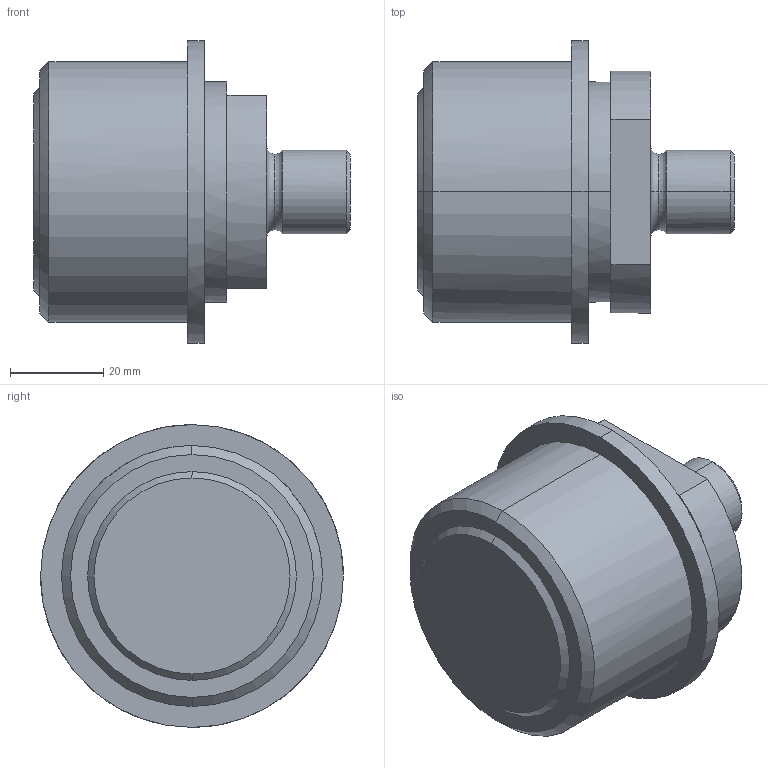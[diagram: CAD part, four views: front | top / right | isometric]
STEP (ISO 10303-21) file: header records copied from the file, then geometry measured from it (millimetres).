
FILE_DESCRIPTION(('CATIA V5 STEP Exchange'),'2;1');
FILE_NAME('C:\Users\Utente\Desktop\IO LAVORO\3D X SITO CF\X SITO\PLASTICA\AGS\AGS3412M18.stp','2021-02-21T19:39:13+00:00',('none'),('none'),'CATIA Version 5 Release 20 GA (IN-10)','CATIA V5 STEP AP203','none');
FILE_SCHEMA(('CONFIG_CONTROL_DESIGN'));
Length unit declared in the file: millimetre
Products named in the file (1): AGS3412M18
Bounding box: 68 x 65 x 65 mm (x, y, z)
Volume: 120860.7 mm3; surface area: 16355.2 mm2
Topology: 1 solids, 1 shells, 32 faces, 90 edges, 64 vertices
Faces by surface type: plane 12, cylinder 10, cone 6, torus 4
Entity records: 1198 total; most frequent: CARTESIAN_POINT 343, ORIENTED_EDGE 180, DIRECTION 139, EDGE_CURVE 90, AXIS2_PLACEMENT_3D 82, VERTEX_POINT 64, CIRCLE 49, EDGE_LOOP 36
